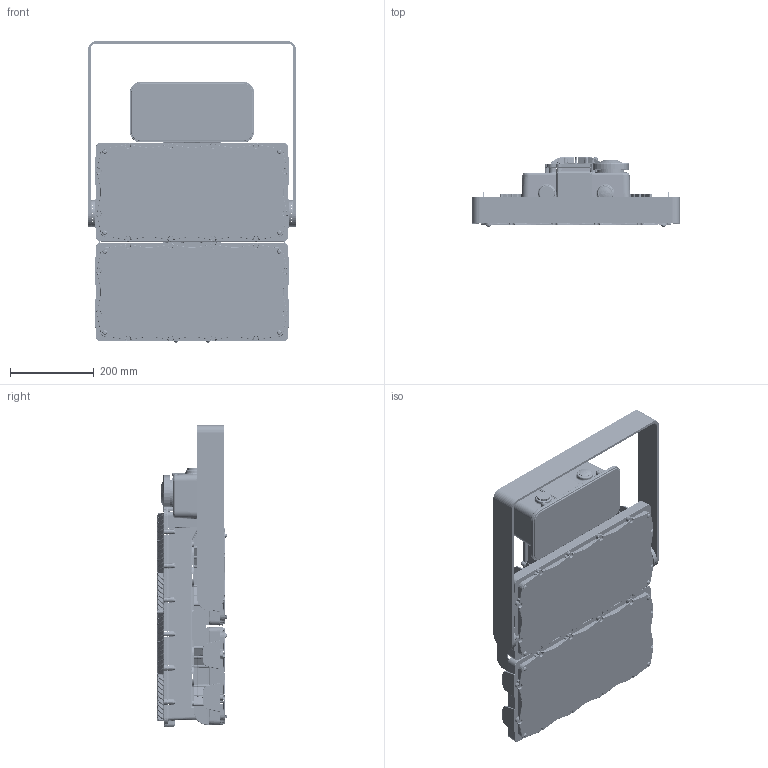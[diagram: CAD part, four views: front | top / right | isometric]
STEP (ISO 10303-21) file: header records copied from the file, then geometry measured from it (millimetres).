
FILE_DESCRIPTION((''),'2;1');
FILE_NAME('F2_EU_47_XXXXSFNXXN_SW','2021-04-15T12:49:25',('gatsonnb'),(''),'CREO PARAMETRIC BY PTC INC, 2019080','CREO PARAMETRIC BY PTC INC, 2019080','');
FILE_SCHEMA(('CONFIG_CONTROL_DESIGN'));
Products named in the file (1): F2_EU_47_XXXXSFNXXN_SW
Bounding box: 494.59 x 165.15 x 719.39 mm (x, y, z)
Surface area: 2347335.3 mm2 (no closed solid volume)
Topology: 0 solids, 194 shells, 16264 faces, 46126 edges, 28258 vertices
Faces by surface type: bspline 6082, cylinder 4600, plane 2879, cone 1444, torus 1152, sphere 107
Entity records: 843993 total; most frequent: CARTESIAN_POINT 496232, ORIENTED_EDGE 76226, DIRECTION 57271, EDGE_CURVE 46126, VERTEX_POINT 28258, AXIS2_PLACEMENT_3D 22560, B_SPLINE_CURVE_WITH_KNOTS 21597, EDGE_LOOP 16264
